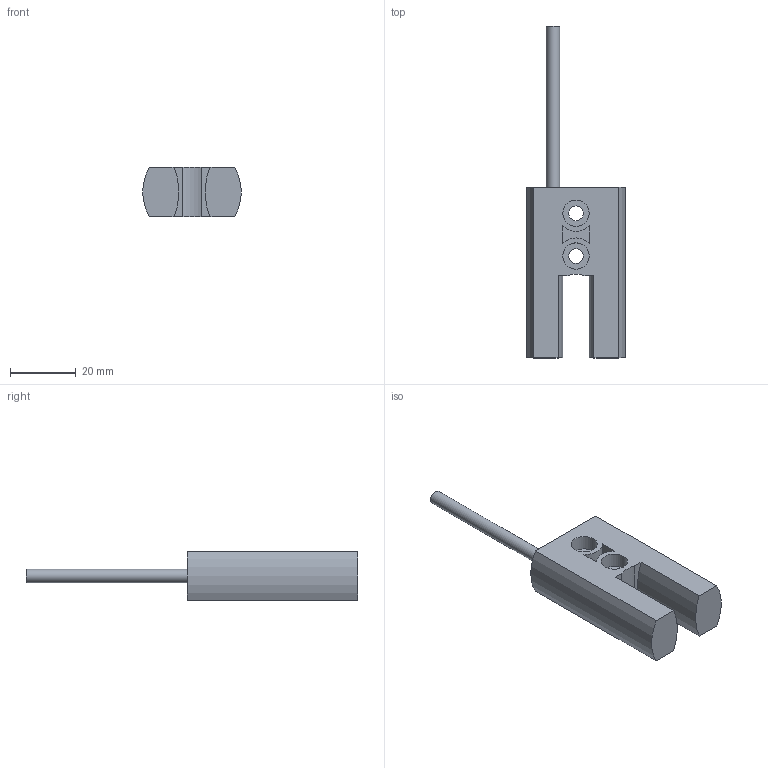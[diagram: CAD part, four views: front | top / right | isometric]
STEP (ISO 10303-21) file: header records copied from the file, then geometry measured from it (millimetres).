
FILE_DESCRIPTION(/* description */ ('Katalogmodell Elobau'),/* implementation_level */ '2;1');
FILE_NAME(/* name */ '1405___A.stp',/* time_stamp */ '2014-09-23T09:29:45+02:00',/* author */ ('Elobau GmbH & Co. KG'),/* organization */ ('Elobau GmbH & Co. KG'),/* preprocessor_version */ 'ST-DEVELOPER v15',/* originating_system */ 'SIEMENS PLM Software NX 8.5',/* authorisation */ '');
FILE_SCHEMA (('AUTOMOTIVE_DESIGN { 1 0 10303 214 3 1 1 1 }'));
Length unit declared in the file: millimetre
Products named in the file (1): 1405.._A
Bounding box: 30 x 101 x 15 mm (x, y, z)
Volume: 18215.9 mm3; surface area: 6986 mm2
Topology: 1 solids, 1 shells, 34 faces, 76 edges, 51 vertices
Faces by surface type: plane 18, cylinder 16
Full cylindrical faces by diameter (mm): 4.1 x1, 4.5 x2, 8 x4
Entity records: 948 total; most frequent: DIRECTION 170, CARTESIAN_POINT 153, ORIENTED_EDGE 136, EDGE_CURVE 68, AXIS2_PLACEMENT_3D 67, EDGE_LOOP 52, VERTEX_POINT 50, LINE 36
